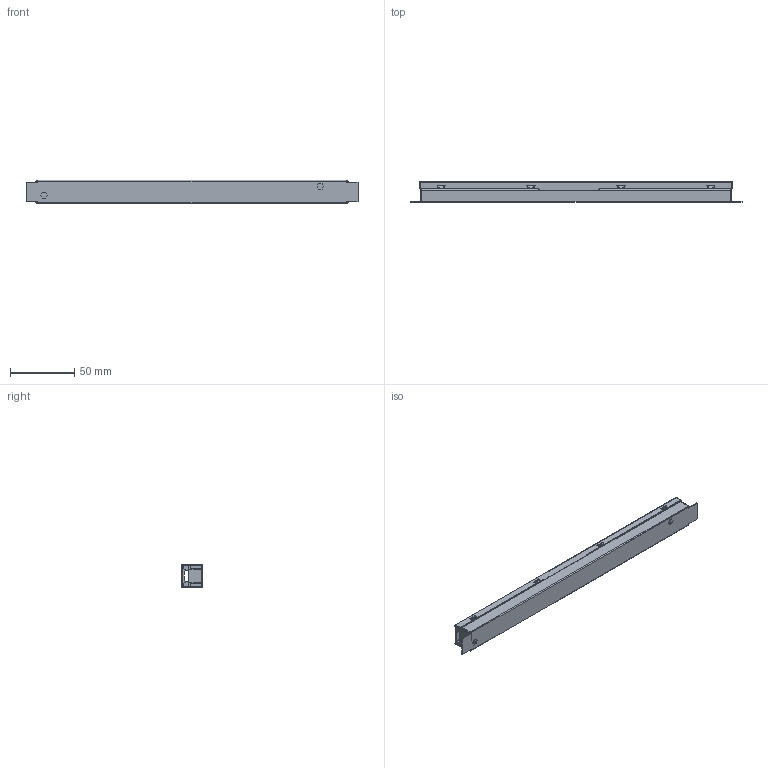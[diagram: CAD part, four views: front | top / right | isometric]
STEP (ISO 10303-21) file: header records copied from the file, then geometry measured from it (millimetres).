
FILE_DESCRIPTION((''),'2;1');
FILE_NAME('50W_CASE_GAO_ASM','2026-02-03T14:44:10',('15365'),(''),'CREO PARAMETRIC BY PTC INC, 2025323','CREO PARAMETRIC BY PTC INC, 2025323','');
FILE_SCHEMA(('CONFIG_CONTROL_DESIGN'));
Length unit declared in the file: millimetre
Products named in the file (5): 50W_BOTTOM_GAO; 50W_TOP_GAO; 50W_CEGAI; LUOZHU-M2; 50W_CASE_GAO_ASM
Assembly tree (6 placements, depth 2):
  50W_CASE_GAO_ASM
    50W_BOTTOM_GAO
    50W_TOP_GAO
    50W_CEGAI  x2
    LUOZHU-M2  x2
Bounding box: 258.52 x 16 x 18.5 mm (x, y, z)
Volume: 11966.2 mm3; surface area: 39843.3 mm2
Topology: 6 solids, 6 shells, 508 faces, 1178 edges, 686 vertices
Faces by surface type: plane 286, cylinder 150, bspline 72
Entity records: 18558 total; most frequent: CARTESIAN_POINT 8626, ORIENTED_EDGE 2094, DIRECTION 1856, EDGE_CURVE 1047, VECTOR 736, LINE 736, VERTEX_POINT 599, AXIS2_PLACEMENT_3D 560
